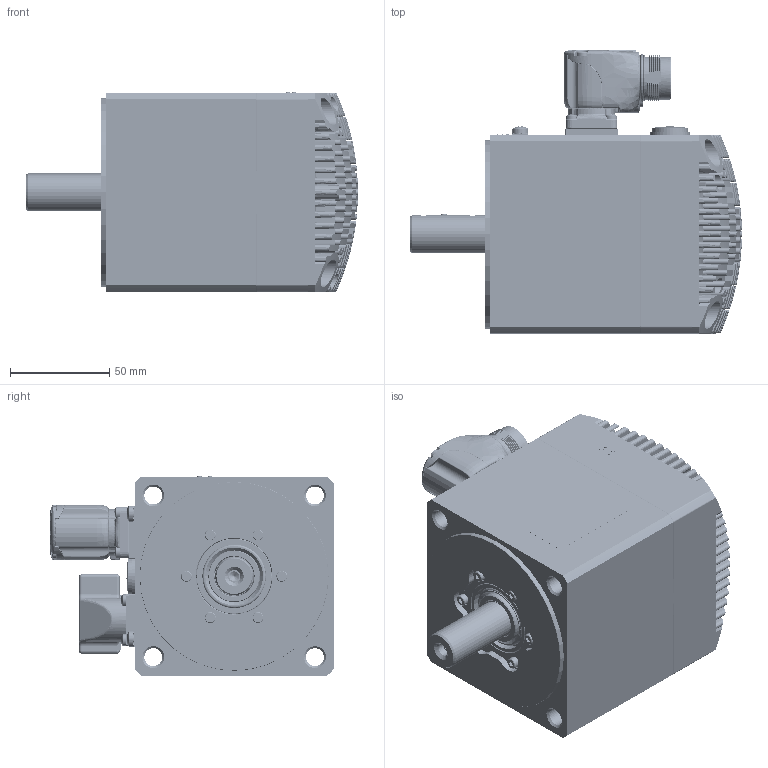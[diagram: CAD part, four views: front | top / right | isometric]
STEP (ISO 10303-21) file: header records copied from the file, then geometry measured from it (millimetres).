
FILE_DESCRIPTION((''),'2;1');
FILE_NAME('32190015644_ASM','2022-04-13T08:49:00',('gabrielec'),(''),'CREO PARAMETRIC BY PTC INC, 2021304','CREO PARAMETRIC BY PTC INC, 2021304','');
FILE_SCHEMA(('AP242_MANAGED_MODEL_BASED_3D_ENGINEERING_MIM_LF { 1 0 10303 442 1 1 4 }'));
Products named in the file (36): 50992N-0; 32149915563_ASM; 22320015066; 50938N-0; 22320015066_ASM; 32050015010_ASM; 32060015505_ASM; 51941N-1; 32090015022_ASM; NRG_001; M3X16_GBT70-1; GB_T862_1; M4X8_GBT818_CU; 32159915173_ASM; 22160015160; MENTOR-1292_9013; CEMBRE_FD9; CEMBRE_2053M16N; 32150015177_ASM; UNI7687_M3X8_INOX; CORPO_3; 33200303857_ASM; 31500303857_AF0_ASM; 50941N-0; UNI7687_M3X6_INOX; UNI5931_M3X6_INOX; 22210015021; 32150015176_ASM; UNI5931_M4X16; LIP_SEAL_TW05; 22250015024; 22250015126; 43500000229; 43500000050; PHOENIX_1605512; 32190015644_ASM
Assembly tree (59 placements, depth 7):
  32190015644_ASM
    32159915173_ASM
      32149915563_ASM
        50992N-0
      32090015022_ASM
        32060015505_ASM
          32050015010_ASM
            22320015066_ASM
              22320015066
              50938N-0
        51941N-1
      NRG_001  x6
      M3X16_GBT70-1  x6
      GB_T862_1  x2
      M4X8_GBT818_CU  x2
    32150015177_ASM
      22160015160
      MENTOR-1292_9013  x4
      CEMBRE_FD9
      CEMBRE_2053M16N
    UNI7687_M3X8_INOX  x4
    31500303857_AF0_ASM
      33200303857_ASM
        CORPO_3
    50941N-0  x2
    UNI7687_M3X6_INOX  x3
    UNI5931_M3X6_INOX
    32150015176_ASM
      22210015021
    UNI5931_M4X16  x4
    LIP_SEAL_TW05
    22250015024
    22250015126
    43500000229
    43500000050
    PHOENIX_1605512
Bounding box: 167 x 142.41 x 100.5 mm (x, y, z)
Volume: 499670.8 mm3; surface area: 252164.5 mm2
Topology: 69 solids, 96 shells, 4255 faces, 10757 edges, 6814 vertices
Faces by surface type: plane 1439, cylinder 1004, cone 621, bspline 596, torus 330, sphere 243, revolution 11, extrusion 11
Entity records: 187477 total; most frequent: CARTESIAN_POINT 66364, ORIENTED_EDGE 19186, DIRECTION 17226, PRESENTATION_STYLE_ASSIGNMENT 9820, EDGE_CURVE 9648, STYLED_ITEM 9645, CURVE_STYLE 9574, AXIS2_PLACEMENT_3D 6718
